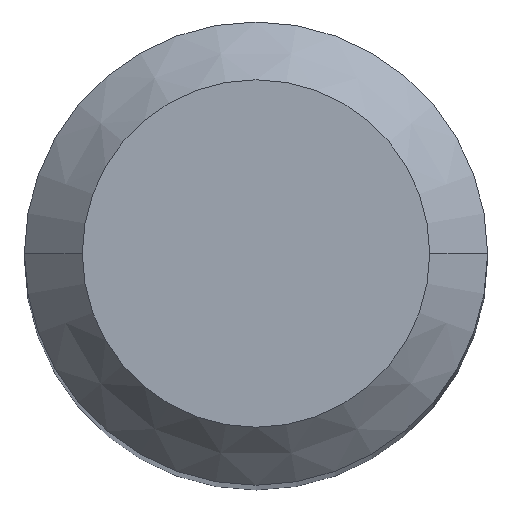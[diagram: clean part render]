
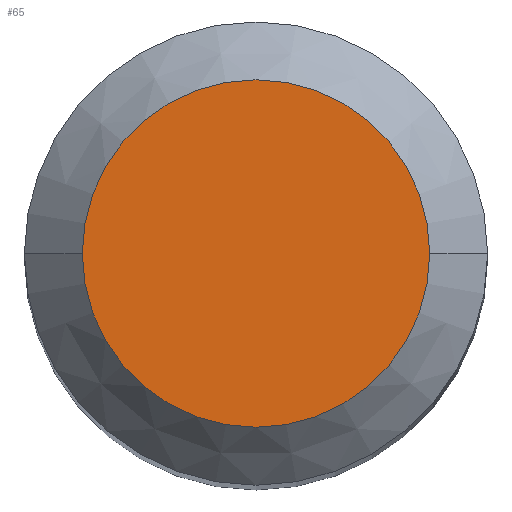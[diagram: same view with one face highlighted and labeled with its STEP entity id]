
A CAD part, top view. The second image highlights one B-rep face of the part: STEP entity #65.
In plain terms, the highlighted planar face has unit normal (0, 0, 1).
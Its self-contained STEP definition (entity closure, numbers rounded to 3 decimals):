
#65=ADVANCED_FACE('',(#125),#126,.T.);
#125=FACE_OUTER_BOUND('',#176,.T.);
#126=PLANE('',#177);
#176=EDGE_LOOP('',(#283,#284));
#177=AXIS2_PLACEMENT_3D('',#285,#286,#287);
#283=ORIENTED_EDGE('',*,*,#319,.T.);
#284=ORIENTED_EDGE('',*,*,#309,.T.);
#285=CARTESIAN_POINT('',(0.0,0.0,0.0));
#286=DIRECTION('',(0.0,0.0,1.0));
#287=DIRECTION('',(1.0,0.0,0.0));
#309=EDGE_CURVE('',#364,#362,#365,.T.);
#319=EDGE_CURVE('',#362,#364,#375,.T.);
#362=VERTEX_POINT('',#426);
#364=VERTEX_POINT('',#429);
#365=CIRCLE('',#430,2.25);
#375=CIRCLE('',#443,2.25);
#426=CARTESIAN_POINT('',(-2.25,0.0,0.0));
#429=CARTESIAN_POINT('',(2.25,0.,0.0));
#430=AXIS2_PLACEMENT_3D('',#481,#482,#483);
#443=AXIS2_PLACEMENT_3D('',#496,#497,#498);
#481=CARTESIAN_POINT('',(0.0,0.0,0.0));
#482=DIRECTION('',(0.0,0.0,1.0));
#483=DIRECTION('',(-1.0,0.0,0.0));
#496=CARTESIAN_POINT('',(0.0,0.0,0.0));
#497=DIRECTION('',(0.0,0.0,1.0));
#498=DIRECTION('',(-1.0,0.0,0.0));
